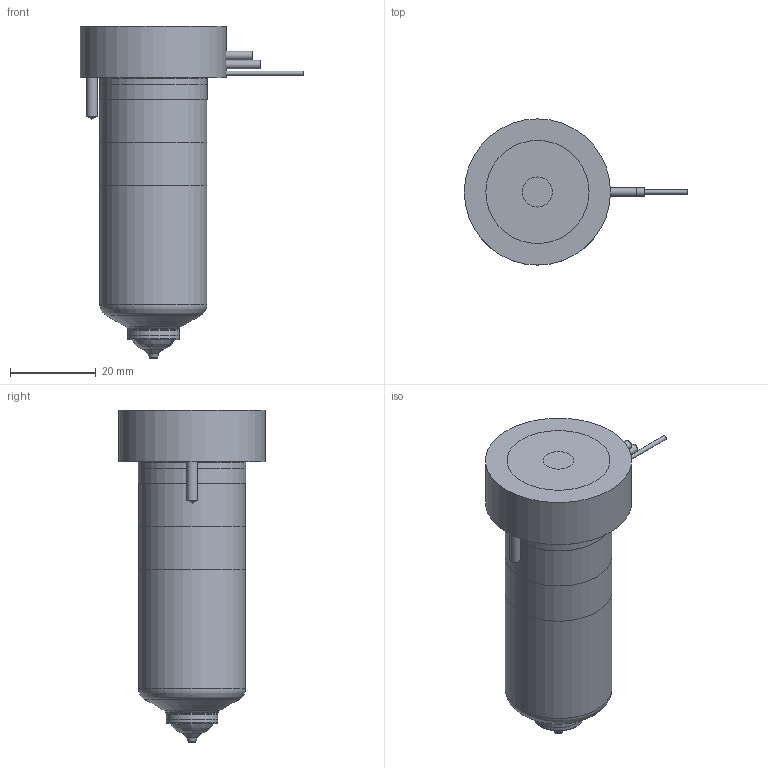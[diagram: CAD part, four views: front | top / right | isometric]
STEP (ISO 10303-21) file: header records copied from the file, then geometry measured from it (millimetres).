
FILE_DESCRIPTION(/* description */ (''),/* implementation_level */ '2;1');
FILE_NAME(/* name */ 'MXTV16065_250C_b',/* time_stamp */ '2007-01-18T09:54:09+13:00',/* author */ (''),/* organization */ (''),/* preprocessor_version */ 'ST-DEVELOPER v9',/* originating_system */ 'UGS - NX 4.0',/* authorisation */ '');
FILE_SCHEMA (('CONFIG_CONTROL_DESIGN'));
Length unit declared in the file: millimetre
Products named in the file (1): MXTV16065_250C_b
Bounding box: 51.95 x 34 x 77.21 mm (x, y, z)
Volume: 70490.6 mm3; surface area: 16616.9 mm2
Topology: 7 solids, 7 shells, 86 faces, 163 edges, 104 vertices
Faces by surface type: plane 36, cylinder 27, cone 13, torus 8, bspline 2
Full cylindrical faces by diameter (mm): 1 x3, 2 x2, 2.5 x3, 7 x1, 11.61 x1, 12.01 x2, 14.8 x1, 20.8 x1, 24.9 x2, 25 x2, 34 x1
Entity records: 2065 total; most frequent: CARTESIAN_POINT 423, DIRECTION 352, ORIENTED_EDGE 228, AXIS2_PLACEMENT_3D 163, EDGE_LOOP 138, EDGE_CURVE 114, VERTEX_POINT 95, ADVANCED_FACE 86
